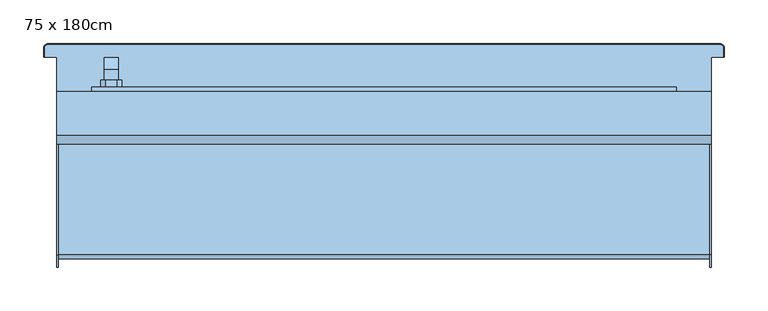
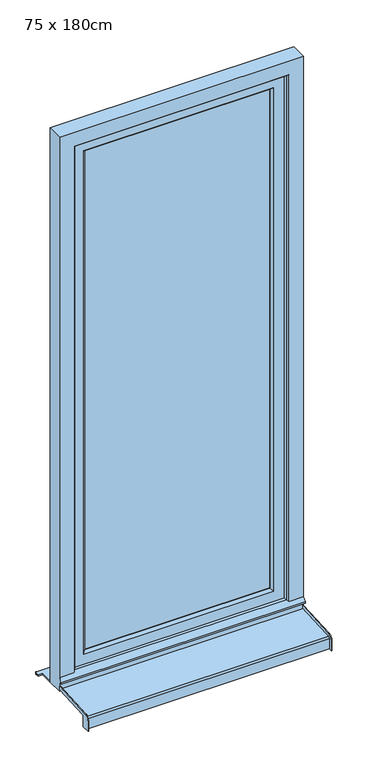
"""IFC4 building model written with IfcOpenShell, lengths in millimetres: window geometry, Fenêtre type 1 : 75 x 180cm."""

import ifcopenshell
import ifcopenshell.guid

model = None  # the IFC model being written
_history = None  # IfcOwnerHistory: only IFC2X3 demands one
_inside = {}  # id of a spatial element -> (the spatial element, [elements in it])
_under = {}  # id of a project, library or spatial element -> (it, [spatial elements below it])
_declared = {}  # id of a project -> (the project, [libraries it declares])
_typed = {}  # id of a type object -> (the type object, [elements of that type])
_made_of = {}  # id of a material, layer set ... -> (it, [elements and type objects made of it])


def new_model(schema):
    """Start an empty IFC model of exactly this schema.

    Asked for "IFC4X3", IfcOpenShell would pick the latest addendum, in which some entities
    have other attributes; the version numbers below select the first issue.
    IFC2X3 requires an IfcOwnerHistory on every rooted entity: one is made here for all.
    """
    global model, _history
    if schema == "IFC4X3":
        model = ifcopenshell.file(schema_version=(4, 3, 0, 0))
    else:
        model = ifcopenshell.file(schema=schema)
    _inside.clear()
    _under.clear()
    _declared.clear()
    _typed.clear()
    _made_of.clear()
    _history = None
    if model.schema == "IFC2X3":
        org = make("IfcOrganization", Name="unknown")
        user = make(
            "IfcPersonAndOrganization",
            ThePerson=make("IfcPerson", FamilyName="unknown"),
            TheOrganization=org,
        )
        app = make(
            "IfcApplication",
            ApplicationDeveloper=org,
            Version="unknown",
            ApplicationFullName="unknown",
            ApplicationIdentifier="unknown",
        )
        _history = make(
            "IfcOwnerHistory",
            OwningUser=user,
            OwningApplication=app,
            ChangeAction="ADDED",
            CreationDate=0,
        )
    return model


def make(cls, **values):
    """One entity of the class cls with the attributes given. An attribute that is None is left unset."""
    return model.create_entity(
        cls, **{name: value for name, value in values.items() if value is not None}
    )


def rooted(cls, **values):
    """An entity with a GlobalId (a new one), such as an element, a storey or a relation."""
    return make(cls, GlobalId=ifcopenshell.guid.new(), OwnerHistory=_history, **values)


def si_unit(unit_type, name, prefix=None):
    """IfcSIUnit, for example si_unit("LENGTHUNIT", "METRE", prefix="MILLI")."""
    return make("IfcSIUnit", UnitType=unit_type, Prefix=prefix, Name=name)


def assignment(units):
    """IfcUnitAssignment: the units of a project."""
    return None if units is None else make("IfcUnitAssignment", Units=units)


def point(xyz):
    """IfcCartesianPoint."""
    return None if xyz is None else make("IfcCartesianPoint", Coordinates=xyz)


def direction(xyz):
    """IfcDirection."""
    return None if xyz is None else make("IfcDirection", DirectionRatios=xyz)


def frame(location, z_axis=None, x_axis=None):
    """IfcAxis2Placement3D, a coordinate frame: its origin and axes. An axis left out is left unset."""
    return make(
        "IfcAxis2Placement3D",
        Location=point(location),
        Axis=direction(z_axis),
        RefDirection=direction(x_axis),
    )


def origin():
    """The frame at (0, 0, 0) with its axes left unset."""
    return frame((0.0, 0.0, 0.0))


def place(relative_to, where):
    """IfcLocalPlacement: puts the frame where relative to a parent placement (None: the world)."""
    return make(
        "IfcLocalPlacement", PlacementRelTo=relative_to, RelativePlacement=where
    )


def context(
    kind, dimensions, precision=None, world=None, true_north=None, identifier=None
):
    """IfcGeometricRepresentationContext, for example the 3D "Model" context."""
    return make(
        "IfcGeometricRepresentationContext",
        ContextIdentifier=identifier,
        ContextType=kind,
        CoordinateSpaceDimension=dimensions,
        Precision=precision,
        WorldCoordinateSystem=world,
        TrueNorth=true_north,
    )


def project(units=None, contexts=None):
    """IfcProject with its units and contexts."""
    return rooted(
        "IfcProject",
        Name="project",
        RepresentationContexts=contexts,
        UnitsInContext=assignment(units),
    )


def spatial(cls, under=None, at=None, **own):
    """A site, building, storey or space (cls), placed at a placement, below another one or the project."""
    s = rooted(cls, ObjectPlacement=at, **own)
    if under is not None:
        _under.setdefault(under.id(), (under, []))[1].append(s)
    return s


def polyline(points):
    """IfcPolyline through the points."""
    return make("IfcPolyline", Points=[point(p) for p in points])


def circle_curve(where, radius):
    """IfcCircle in the frame where."""
    return make("IfcCircle", Position=where, Radius=radius)


def outline(outer, holes=None, kind="AREA"):
    """IfcArbitraryClosedProfileDef: a profile drawn as a closed curve; with holes, ...WithVoids."""
    if holes is None:
        return make("IfcArbitraryClosedProfileDef", ProfileType=kind, OuterCurve=outer)
    return make(
        "IfcArbitraryProfileDefWithVoids",
        ProfileType=kind,
        OuterCurve=outer,
        InnerCurves=holes,
    )


def extrude(swept, where, along, depth):
    """IfcExtrudedAreaSolid: the profile swept, set in the frame where, extruded along a direction by depth."""
    return make(
        "IfcExtrudedAreaSolid",
        SweptArea=swept,
        Position=where,
        ExtrudedDirection=direction(along),
        Depth=depth,
    )


def faces_of(points, faces, orient=None, outer=None):
    """IfcFace entities. A face is a list of loops; a loop is a list of indices into points, from 0.

    orient and outer hold one flag for each loop. By default every Orientation is true, the
    first loop of a face is its IfcFaceOuterBound and the others are IfcFaceBound.
    """
    made = []
    for i, loops in enumerate(faces):
        bounds = []
        for j, loop in enumerate(loops):
            is_outer = j == 0 if outer is None else outer[i][j]
            bounds.append(
                make(
                    "IfcFaceOuterBound" if is_outer else "IfcFaceBound",
                    Bound=make("IfcPolyLoop", Polygon=[points[k] for k in loop]),
                    Orientation=True if orient is None else orient[i][j],
                )
            )
        made.append(make("IfcFace", Bounds=bounds))
    return made


def faceted_brep(points, faces, orient=None, outer=None, voids=None):
    """IfcFacetedBrep: a solid bounded by flat faces; with voids (closed shells), ...WithVoids."""
    shared = [point(p) for p in points]
    hull = make("IfcClosedShell", CfsFaces=faces_of(shared, faces, orient, outer))
    if voids is None:
        return make("IfcFacetedBrep", Outer=hull)
    return make(
        "IfcFacetedBrepWithVoids",
        Outer=hull,
        Voids=[
            make(cls, CfsFaces=faces_of(shared, fs, o, b)) for cls, fs, o, b in voids
        ],
    )


def shape(context_of_items, identifier, shape_type, items):
    """IfcShapeRepresentation: the items that make up one representation, for example the "Body"."""
    return make(
        "IfcShapeRepresentation",
        ContextOfItems=context_of_items,
        RepresentationIdentifier=identifier,
        RepresentationType=shape_type,
        Items=items,
    )


def source(mapping_origin, context_of_items, identifier, shape_type, items):
    """IfcRepresentationMap: a shape defined once, which mapped items show again and again."""
    return make(
        "IfcRepresentationMap",
        MappingOrigin=mapping_origin,
        MappedRepresentation=shape(context_of_items, identifier, shape_type, items),
    )


def transform(
    local_origin,
    x_axis=None,
    y_axis=None,
    z_axis=None,
    scale=None,
    scale2=None,
    scale3=None,
    uniform=True,
):
    """IfcCartesianTransformationOperator3D, or its non-uniform kind. x_axis, y_axis, z_axis: its Axis1, 2, 3."""
    if uniform:
        return make(
            "IfcCartesianTransformationOperator3D",
            Axis1=direction(x_axis),
            Axis2=direction(y_axis),
            LocalOrigin=point(local_origin),
            Scale=scale,
            Axis3=direction(z_axis),
        )
    return make(
        "IfcCartesianTransformationOperator3DnonUniform",
        Axis1=direction(x_axis),
        Axis2=direction(y_axis),
        LocalOrigin=point(local_origin),
        Scale=scale,
        Axis3=direction(z_axis),
        Scale2=scale2,
        Scale3=scale3,
    )


def mapped(mapping_source, mapping_target):
    """IfcMappedItem: shows the shape of a source again, moved by a transform."""
    return make(
        "IfcMappedItem", MappingSource=mapping_source, MappingTarget=mapping_target
    )


def made_of(thing, what):
    """Note that an element or type object is made of a material, layer set ...; save() writes the relation."""
    if what is not None:
        _made_of.setdefault(what.id(), (what, []))[1].append(thing)
    return thing


def element(
    cls,
    number,
    at=None,
    inside=None,
    cuts=None,
    type_object=None,
    material=None,
    context=None,
    identifier="Body",
    shape_type=None,
    held_by="IfcProductDefinitionShape",
    body=None,
    shapes=None,
    **own,
):
    """One element of the class cls, such as IfcWall. Its Tag is "e" and its number.

    at: its placement. inside: the storey or other place that contains it. cuts: it is an
    opening in that element (IfcRelVoidsElement). A single representation is given by context,
    identifier, shape_type and body (its items); several are given by shapes. held_by: the class
    of the entity that holds the representations. save() writes the other relations.
    """
    e = rooted(cls, Tag="e%d" % number, ObjectPlacement=at, **own)
    if body is not None:
        shapes = [shape(context, identifier, shape_type, body)]
    if shapes is not None:
        e.Representation = make(held_by, Representations=shapes)
    if inside is not None:
        _inside.setdefault(inside.id(), (inside, []))[1].append(e)
    if cuts is not None:
        rooted(
            "IfcRelVoidsElement", RelatingBuildingElement=cuts, RelatedOpeningElement=e
        )
    if type_object is not None:
        _typed.setdefault(type_object.id(), (type_object, []))[1].append(e)
    return made_of(e, material)


def aggregate(whole, parts):
    """IfcRelAggregates: a whole, such as a stair, and the parts it consists of."""
    return rooted("IfcRelAggregates", RelatingObject=whole, RelatedObjects=parts)


def save(model, path):
    """Write the relations noted so far, then the file.

    IfcRelAggregates (storeys below a building ...), IfcRelContainedInSpatialStructure (elements
    in a storey), IfcRelDefinesByType, IfcRelAssociatesMaterial and IfcRelDeclares: one each for
    every whole, place, type object, material and project.
    """
    for whole, parts in _under.values():
        aggregate(whole, parts)
    for where, things in _inside.values():
        rooted(
            "IfcRelContainedInSpatialStructure",
            RelatedElements=things,
            RelatingStructure=where,
        )
    for kind, things in _typed.values():
        rooted("IfcRelDefinesByType", RelatedObjects=things, RelatingType=kind)
    for what, things in _made_of.values():
        rooted("IfcRelAssociatesMaterial", RelatedObjects=things, RelatingMaterial=what)
    for by, libraries in _declared.values():
        rooted("IfcRelDeclares", RelatingContext=by, RelatedDefinitions=libraries)
    model.write(path)


def plane_surface(at):
    """IfcPlane: the flat surface through the origin of the frame at, square to its z axis."""
    return make("IfcPlane", Position=at)


def cylinder_surface(at, radius):
    """IfcCylindricalSurface: all points at the distance radius from the z axis of the frame at."""
    return make("IfcCylindricalSurface", Position=at, Radius=radius)


def revolved_surface(curve, axis_point, axis_direction):
    """IfcSurfaceOfRevolution: the curve turned about the line through axis_point along axis_direction."""
    return make(
        "IfcSurfaceOfRevolution",
        SweptCurve=make("IfcArbitraryOpenProfileDef", ProfileType="CURVE", Curve=curve),
        AxisPosition=make("IfcAxis1Placement", Location=point(axis_point), Axis=direction(axis_direction)),
    )


def advanced_brep(points, edges, surfaces, faces):
    """IfcAdvancedBrep: a solid bounded by faces that lie on surfaces and meet in shared edges.

    An edge is (start, end): straight between two places in points (the first is 0);
    or (start, end, curve); or (start, end, curve, False) where it runs against its curve.
    A face is (place in surfaces, loops), or (place, loops, False) where it looks against
    its surface's normal. A loop lists edges by number (the first is 1), with a minus sign
    where the edge is run from its end to its start. The first loop is the outer one.
    """
    corners = [point(p) for p in points]
    vertices = [make("IfcVertexPoint", VertexGeometry=c) for c in corners]
    made = []
    for start, end, *more in edges:
        made.append(
            make(
                "IfcEdgeCurve",
                EdgeStart=vertices[start],
                EdgeEnd=vertices[end],
                EdgeGeometry=more[0] if more else make("IfcPolyline", Points=[corners[start], corners[end]]),
                SameSense=more[1] if len(more) > 1 else True,
            )
        )
    hull = []
    for where, loops, *sense in faces:
        bounds = []
        for j, loop in enumerate(loops):
            ring = [make("IfcOrientedEdge", EdgeElement=made[abs(k) - 1], Orientation=k > 0) for k in loop]
            bounds.append(
                make(
                    "IfcFaceOuterBound" if j == 0 else "IfcFaceBound",
                    Bound=make("IfcEdgeLoop", EdgeList=ring),
                    Orientation=True,
                )
            )
        hull.append(make("IfcAdvancedFace", Bounds=bounds, FaceSurface=surfaces[where], SameSense=sense[0] if sense else True))
    return make("IfcAdvancedBrep", Outer=make("IfcClosedShell", CfsFaces=hull))


def window_75_x_180cm_aebe7c0e(model_context):
    return source(origin(), model_context, "Body", "SolidModel", [
        faceted_brep([(-320.5, 73.0, 1306.0), (-320.5, 73.0, 1294.0), (-304.5, 73.0, 1294.0), (-304.5, 73.0, 1306.0), (-304.5, 85.4852814, 1306.0), (-320.5, 85.4852814, 1306.0), (-304.5, 80.5147186, 1294.0), (-304.5, 87.0, 1287.5147186), (-304.5, 87.0, 1287.2282668), (-304.5, 89.7580139, 1208.5355339), (-304.5, 99.0, 1208.5355339), (-304.5, 99.0, 1292.4852814), (-320.5, 80.5147186, 1294.0), (-320.5, 99.0, 1292.4852814), (-320.5, 99.0, 1208.5355339), (-320.5, 89.7580139, 1208.5355339), (-320.5, 87.0099909, 1287.2286157), (-320.5, 87.0, 1287.5147186), (-308.0355339, 99.0, 1205.0), (-308.0355339, 89.8814775, 1205.0), (-316.9644661, 89.8814775, 1205.0), (-316.9644661, 99.0, 1205.0)], [[[0, 1, 2, 3]], [[3, 4, 5, 0]], [[2, 6, 7, 8, 9, 10, 11, 4, 3]], [[1, 12, 6, 2]], [[0, 5, 13, 14, 15, 16, 17, 12, 1]], [[4, 11, 13, 5]], [[6, 12, 17, 7]], [[18, 19, 20, 21]], [[11, 10, 18, 21, 14, 13]], [[17, 16, 8, 7]], [[16, 15, 20, 19, 9, 8]], [[9, 19, 18, 10]], [[14, 21, 20, 15]]]),
        extrude(outline(polyline([(1330.0, -319.5), (1325.0, -324.5), (1275.0, -324.5), (1270.0, -319.5), (1270.0, -305.5), (1275.0, -300.5), (1325.0, -300.5), (1330.0, -305.5), (1330.0, -319.5)])), frame((0.0, 65.0, 0.0), z_axis=(0.0, 1.0, 0.0), x_axis=(0.0, 0.0, 1.0)), (0.0, 0.0, 1.0), 8.0),
        advanced_brep(
        [(-375.0, -115.0, 762.0), (-375.0, -141.5, 762.0), (-375.0, -141.5, 795.1063906), (-375.0, -127.2850393, 810.0858337), (-375.0, 10.0, 817.2806377), (-375.0, 10.0, 805.7648557), (-375.0, -115.0, 799.2138833), (375.0, -115.0, 799.2138833), (375.0, 10.0, 805.7648557), (375.0, 10.0, 817.2806377), (375.0, -127.2850393, 810.0858337), (375.0, -141.5, 795.1063906), (375.0, -141.5, 762.0), (375.0, -115.0, 762.0), (-373.0, 10.0, 817.2806377), (-373.0, 10.0, 807.2669142), (373.0, 10.0, 807.2669142), (373.0, 10.0, 817.2806377), (-373.0, -126.7616798, 800.0995383), (373.0, -126.7616798, 800.0995383), (373.0, -131.5, 795.1063906), (-373.0, -131.5, 795.1063906), (-373.0, -131.5, 762.0), (373.0, -131.5, 762.0), (-373.0, -130.0, 762.0), (373.0, -130.0, 762.0), (373.0, -115.0, 762.0), (373.0, -141.5, 762.0), (-373.0, -141.5, 762.0), (-373.0, -115.0, 762.0), (-373.0, -120.0, 772.0), (373.0, -120.0, 772.0), (-373.0, -121.0606602, 773.0606602), (373.0, -121.0606602, 773.0606602), (-373.0, -130.0, 764.1213203), (373.0, -130.0, 764.1213203), (-373.0, -130.0, 795.0728058), (373.0, -130.0, 795.0728058), (-373.0, -115.0, 799.2138833), (373.0, -115.0, 799.2138833), (373.0, -126.649637, 798.6033517), (-373.0, -126.649637, 798.6033517), (373.0, -141.5, 795.1063906), (373.0, -127.2850393, 810.0858337), (-373.0, -127.2850393, 810.0858337), (-373.0, -141.5, 795.1063906)],
        [
            (0, 1),
            (1, 2),
            (2, 3, circle_curve(frame((-375.0, -126.5, 795.1063906), z_axis=(-1.0, 0.0, 0.0), x_axis=(0.0, -0.052335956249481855, 0.9986295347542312)), 15.0)),
            (3, 4),
            (4, 5),
            (5, 6),
            (6, 0),
            (7, 8),
            (8, 9),
            (9, 10),
            (10, 11, circle_curve(frame((375.0, -126.5, 795.1063906), z_axis=(1.0, 0.0, 0.0), x_axis=(0.0, -1.0, 0.0)), 15.0)),
            (11, 12),
            (12, 13),
            (13, 7),
            (14, 15),
            (15, 16),
            (16, 17),
            (17, 9),
            (8, 5),
            (4, 14),
            (18, 19),
            (19, 16),
            (15, 18),
            (20, 21),
            (21, 22),
            (22, 23),
            (23, 20),
            (24, 25),
            (25, 26),
            (26, 13),
            (12, 27),
            (27, 23),
            (22, 28),
            (28, 1),
            (0, 29),
            (29, 24),
            (30, 31),
            (31, 25),
            (24, 30),
            (32, 33),
            (33, 31),
            (30, 32),
            (34, 35),
            (35, 33),
            (32, 34),
            (36, 37),
            (37, 35),
            (34, 36),
            (38, 6),
            (7, 39),
            (39, 40),
            (40, 41),
            (41, 38),
            (41, 36, circle_curve(frame((-373.0, -126.4646089, 795.0728058), z_axis=(1.0, 0.0, 0.0), x_axis=(0.0, 1.0, 0.0)), 3.5353911)),
            (29, 38),
            (37, 40, circle_curve(frame((373.0, -126.4646089, 795.0728058), z_axis=(-1.0, 0.0, 0.0), x_axis=(0.0, 1.0, 0.0)), 3.5353911)),
            (39, 26),
            (18, 21, circle_curve(frame((-373.0, -126.5, 795.1063906), z_axis=(1.0, 0.0, 0.0), x_axis=(0.0, 1.0, 0.0)), 5.0)),
            (20, 19, circle_curve(frame((373.0, -126.5, 795.1063906), z_axis=(-1.0, 0.0, 0.0), x_axis=(0.0, 1.0, 0.0)), 5.0)),
            (27, 42),
            (42, 43, circle_curve(frame((373.0, -126.5, 795.1063906), z_axis=(-1.0, 0.0, 0.0), x_axis=(0.0, -1.0, 0.0)), 15.0)),
            (43, 17),
            (11, 42),
            (10, 43),
            (14, 44),
            (44, 45, circle_curve(frame((-373.0, -126.5, 795.1063906), z_axis=(1.0, 0.0, 0.0), x_axis=(0.0, -0.052335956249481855, 0.9986295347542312)), 15.0)),
            (45, 28),
            (3, 44),
            (2, 45),
        ],
        [
            plane_surface(frame((-375.0, 10.0, 805.7648557), z_axis=(-1.0, 0.0, 0.0), x_axis=(0.0, 0.0, 1.0))),
            plane_surface(frame((375.0, 10.0, 805.7648557), z_axis=(1.0, 0.0, 0.0), x_axis=(0.0, 0.0, -1.0))),
            plane_surface(frame((-375.0, 10.0, 805.7648557), z_axis=(0.0, 1.0, 0.0), x_axis=(1.0, 0.0, 0.0))),
            plane_surface(frame((-375.0, 10.0, 807.2669142), z_axis=(0.0, -0.0523359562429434, 0.9986295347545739), x_axis=(1.0, 0.0, 0.0))),
            plane_surface(frame((-375.0, -131.5, 795.1063906), z_axis=(0.0, -1.0, 0.0), x_axis=(1.0, 0.0, 0.0))),
            plane_surface(frame((-375.0, -131.5, 762.0), z_axis=(0.0, 0.0, -1.0), x_axis=(1.0, 0.0, 0.0))),
            plane_surface(frame((-375.0, -130.0, 762.0), z_axis=(0.0, 0.7071067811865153, -0.7071067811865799), x_axis=(1.0, 0.0, 0.0))),
            plane_surface(frame((-375.0, -120.0, 772.0), z_axis=(0.0, 0.7071067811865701, 0.707106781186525), x_axis=(1.0, 0.0, 0.0))),
            plane_surface(frame((-375.0, -121.0606602, 773.0606602), z_axis=(0.0, -0.7071067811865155, 0.7071067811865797), x_axis=(1.0, 0.0, 0.0))),
            plane_surface(frame((-375.0, -130.0, 764.1213203), z_axis=(0.0, 1.0, 0.0), x_axis=(1.0, 0.0, 0.0))),
            plane_surface(frame((-375.0, -126.649637, 798.6033517), z_axis=(0.0, 0.05233595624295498, -0.9986295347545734), x_axis=(1.0, 0.0, 0.0))),
            plane_surface(frame((-373.0, -130.0, 798.4277666), z_axis=(1.0, 0.0, 0.0), x_axis=(0.0, 0.9986295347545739, 0.05233595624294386))),
            plane_surface(frame((-375.0, -115.0, 762.0), z_axis=(0.0, 1.0, 0.0), x_axis=(1.0, 0.0, 0.0))),
            plane_surface(frame((373.0, -130.0, 798.4277666), z_axis=(-1.0, 0.0, 0.0), x_axis=(0.0, 0.0, -1.0))),
            plane_surface(frame((373.0, -115.0, 762.0), z_axis=(0.0, 1.0, 0.0), x_axis=(1.0, 0.0, 0.0))),
            cylinder_surface(frame((375.0, -126.5, 795.1063906), z_axis=(-1.0, 0.0, 0.0), x_axis=(0.0, 1.0, 0.0)), 5.0),
            revolved_surface(polyline([(373.0, -122.9292178, 795.0728058), (-373.0, -122.9292178, 795.0728058)]), (375.0, -126.4646089, 795.0728058), (1.0, 0.0, 0.0)),
            plane_surface(frame((373.0, -131.5, 762.0), z_axis=(-1.0, 0.0, 0.0), x_axis=(0.0, 0.0, 1.0))),
            plane_surface(frame((373.0, -141.5, 762.0), z_axis=(0.0, -1.0, 0.0), x_axis=(0.0, 0.0, 1.0))),
            cylinder_surface(frame((375.0, -126.5, 795.1063906), z_axis=(1.0, 0.0, 0.0), x_axis=(0.0, -1.0, 0.0)), 15.0),
            plane_surface(frame((373.0, -127.2850393, 810.0858337), z_axis=(0.0, -0.052335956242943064, 0.9986295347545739), x_axis=(0.0, 0.9986295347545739, 0.052335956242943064))),
            plane_surface(frame((-373.0, 10.0, 817.2806377), z_axis=(1.0, 0.0, 0.0), x_axis=(0.0, 0.9986295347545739, 0.05233595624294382))),
            plane_surface(frame((-375.0, 10.0, 817.2806377), z_axis=(0.0, -0.05233595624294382, 0.9986295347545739), x_axis=(1.0, 0.0, 0.0))),
            cylinder_surface(frame((-375.0, -126.5, 795.1063906), z_axis=(-1.0, 0.0, 0.0), x_axis=(0.0, -0.052335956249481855, 0.9986295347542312)), 15.0),
            plane_surface(frame((-373.0, -141.5, 795.1063906), z_axis=(0.0, -1.0, 0.0), x_axis=(0.0, 0.0, -1.0))),
        ],
        [
            (0, [[1, 2, 3, 4, 5, 6, 7]]),
            (1, [[8, 9, 10, 11, 12, 13, 14]]),
            (2, [[15, 16, 17, 18, -9, 19, -5, 20]]),
            (3, [[21, 22, -16, 23]]),
            (4, [[24, 25, 26, 27]]),
            (5, [[28, 29, 30, -13, 31, 32, -26, 33, 34, -1, 35, 36]]),
            (6, [[37, 38, -28, 39]]),
            (7, [[40, 41, -37, 42]]),
            (8, [[43, 44, -40, 45]]),
            (9, [[46, 47, -43, 48]]),
            (10, [[49, -6, -19, -8, 50, 51, 52, 53]]),
            (11, [[-53, 54, -48, -45, -42, -39, -36, 55]]),
            (12, [[-35, -7, -49, -55]]),
            (13, [[-38, -41, -44, -47, 56, -51, 57, -29]]),
            (14, [[-50, -14, -30, -57]]),
            (15, [[-21, 58, -24, 59]]),
            (16, [[-52, -56, -46, -54]]),
            (17, [[60, 61, 62, -17, -22, -59, -27, -32]]),
            (18, [[-12, 63, -60, -31]]),
            (19, [[64, -61, -63, -11]]),
            (20, [[-10, -18, -62, -64]]),
            (21, [[65, 66, 67, -33, -25, -58, -23, -15]]),
            (22, [[68, -65, -20, -4]]),
            (23, [[69, -66, -68, -3]]),
            (24, [[-34, -67, -69, -2]]),
        ],
    ),
        extrude(outline(polyline([(-285.0, 55.0), (285.0, 55.0), (285.0, 35.0), (-285.0, 35.0), (-285.0, 55.0)])), frame((0.0, 0.0, 890.0), z_axis=(0.0, 0.0, 1.0), x_axis=(1.0, 0.0, 0.0)), (0.0, 0.0, 1.0), 1620.0),
        faceted_brep([(-335.0, 65.0, 840.0), (335.0, 65.0, 840.0), (335.0, 25.0, 840.0), (-335.0, 25.0, 840.0), (335.0, 65.0, 2560.0), (335.0, 25.0, 2560.0), (-335.0, 25.0, 2560.0), (292.0710678, 25.0, 2517.0710678), (292.0710678, 25.0, 882.9289322), (-292.0710678, 25.0, 882.9289322), (-292.0710678, 25.0, 2517.0710678), (-335.0, 65.0, 2560.0), (292.0710678, 65.0, 882.9289322), (292.0710678, 65.0, 2517.0710678), (-292.0710678, 65.0, 2517.0710678), (-292.0710678, 65.0, 882.9289322), (-285.0, 57.9289322, 890.0), (285.0, 57.9289322, 890.0), (285.0, 57.9289322, 2510.0), (285.0, 32.0710678, 890.0), (285.0, 32.0710678, 2510.0), (-285.0, 32.0710678, 890.0), (-285.0, 57.9289322, 2510.0), (-285.0, 32.0710678, 2510.0)], [[[0, 1, 2, 3]], [[1, 4, 5, 2]], [[2, 5, 6, 3], [7, 8, 9, 10]], [[4, 1, 0, 11], [12, 13, 14, 15]], [[16, 17, 12, 15]], [[17, 18, 13, 12]], [[19, 20, 18, 17]], [[9, 8, 19, 21]], [[8, 7, 20, 19]], [[11, 0, 3, 6]], [[22, 16, 15, 14]], [[23, 21, 16, 22]], [[10, 9, 21, 23]], [[21, 19, 17, 16]], [[4, 11, 6, 5]], [[18, 22, 14, 13]], [[7, 10, 23, 20]], [[20, 23, 22, 18]]]),
        faceted_brep([(375.0, 10.0, 800.0), (375.0, 60.0, 800.0), (375.0, 60.0, 2600.0), (375.0, 10.0, 2600.0), (375.0, 10.0, 845.0), (375.0, 0.0, 835.0), (375.0, 0.0, 830.0), (375.0, 10.0, 830.0), (-375.0, 10.0, 830.0), (-375.0, 10.0, 800.0), (-375.0, 0.0, 830.0), (-375.0, 0.0, 835.0), (330.0, 10.0, 845.0), (325.0, 15.0, 850.0), (-325.0, 15.0, 850.0), (-330.0, 10.0, 845.0), (-375.0, 10.0, 845.0), (-375.0, 10.0, 2600.0), (-330.0, 10.0, 2555.0), (330.0, 10.0, 2555.0), (-375.0, 60.0, 800.0), (-375.0, 60.0, 2600.0), (335.0, 60.0, 840.0), (335.0, 60.0, 2560.0), (-335.0, 60.0, 2560.0), (-335.0, 60.0, 840.0), (-335.0, 25.0, 840.0), (335.0, 25.0, 840.0), (-335.0, 25.0, 2560.0), (335.0, 25.0, 2560.0), (325.0, 25.0, 850.0), (325.0, 25.0, 2550.0), (-325.0, 25.0, 2550.0), (-325.0, 25.0, 850.0), (-325.0, 15.0, 2550.0), (325.0, 15.0, 2550.0)], [[[0, 1, 2, 3, 4, 5, 6, 7]], [[7, 8, 9, 0]], [[6, 10, 8, 7]], [[5, 11, 10, 6]], [[5, 4, 12, 13, 14, 15, 16, 11]], [[17, 16, 15, 18, 19, 12, 4, 3]], [[1, 20, 21, 2], [22, 23, 24, 25]], [[0, 9, 20, 1]], [[9, 8, 10, 11, 16, 17, 21, 20]], [[25, 26, 27, 22]], [[26, 25, 24, 28]], [[22, 27, 29, 23]], [[29, 27, 26, 28], [30, 31, 32, 33]], [[33, 14, 13, 30]], [[34, 14, 33, 32]], [[31, 30, 13, 35]], [[35, 13, 12, 19]], [[18, 15, 14, 34]], [[3, 2, 21, 17]], [[28, 24, 23, 29]], [[31, 35, 34, 32]], [[18, 34, 35, 19]]]),
        advanced_brep(
        [(375.0, 100.0, 805.0), (388.9971508, 100.0, 805.0), (388.9971508, 110.0, 805.0), (385.0, 113.9971508, 805.0), (-385.0, 113.9971508, 805.0), (-388.9971508, 110.0, 805.0), (-388.9971508, 100.0, 805.0), (-375.0, 100.0, 805.0), (-375.0, 60.0, 805.0), (375.0, 60.0, 805.0), (-375.0, 100.0, 800.0), (-388.9971508, 100.0, 800.0), (-388.9971508, 110.0, 800.0), (-385.0, 113.9971508, 800.0), (385.0, 113.9971508, 800.0), (388.9971508, 110.0, 800.0), (388.9971508, 100.0, 800.0), (375.0, 100.0, 800.0), (375.0, 60.0, 800.0), (-375.0, 60.0, 800.0), (-390.0, 110.0, 801.0028492), (-390.0, 100.0, 801.0028492), (-390.0, 100.0, 803.9971508), (-390.0, 110.0, 803.9971508), (390.0, 100.0, 801.0028492), (390.0, 100.0, 803.9971508), (390.0, 110.0, 801.0028492), (390.0, 110.0, 803.9971508), (385.0, 115.0, 801.0028492), (-385.0, 115.0, 801.0028492), (-385.0, 115.0, 803.9971508), (385.0, 115.0, 803.9971508)],
        [
            (0, 1),
            (1, 2),
            (2, 3, circle_curve(frame((385.0, 110.0, 805.0), z_axis=(0.0, 0.0, 1.0), x_axis=(0.0, 1.0, 0.0)), 3.9971508)),
            (3, 4),
            (4, 5, circle_curve(frame((-385.0, 110.0, 805.0), z_axis=(0.0, 0.0, 1.0), x_axis=(-1.0, 0.0, 0.0)), 3.9971508)),
            (5, 6),
            (6, 7),
            (7, 8),
            (8, 9),
            (9, 0),
            (10, 11),
            (11, 12),
            (12, 13, circle_curve(frame((-385.0, 110.0, 800.0), z_axis=(0.0, 0.0, -1.0), x_axis=(-1.0, 0.0, 0.0)), 3.9971508)),
            (13, 14),
            (14, 15, circle_curve(frame((385.0, 110.0, 800.0), z_axis=(0.0, 0.0, -1.0), x_axis=(0.0, 1.0, 0.0)), 3.9971508)),
            (15, 16),
            (16, 17),
            (17, 18),
            (18, 19),
            (19, 10),
            (20, 21),
            (21, 22),
            (22, 23),
            (23, 20),
            (6, 22),
            (21, 11),
            (10, 7),
            (19, 8),
            (18, 9),
            (17, 0),
            (16, 24),
            (24, 25),
            (25, 1),
            (24, 26),
            (26, 27),
            (27, 25),
            (28, 29),
            (29, 30),
            (30, 31),
            (31, 28),
            (31, 27, circle_curve(frame((385.0, 110.0, 803.9971508), z_axis=(0.0, 0.0, -1.0), x_axis=(0.0, 1.0, 0.0)), 5.0)),
            (26, 28, circle_curve(frame((385.0, 110.0, 801.0028492), z_axis=(0.0, 0.0, 1.0), x_axis=(0.0, 1.0, 0.0)), 5.0)),
            (23, 30, circle_curve(frame((-385.0, 110.0, 803.9971508), z_axis=(0.0, 0.0, -1.0), x_axis=(0.0, 1.0, 0.0)), 5.0)),
            (29, 20, circle_curve(frame((-385.0, 110.0, 801.0028492), z_axis=(0.0, 0.0, 1.0), x_axis=(0.0, 1.0, 0.0)), 5.0)),
            (5, 23),
            (20, 12),
            (4, 30),
            (29, 13),
            (3, 31),
            (28, 14),
            (2, 27),
            (26, 15),
        ],
        [
            plane_surface(frame((-390.0, 100.0, 805.0), z_axis=(0.0, 0.0, 1.0), x_axis=(0.0, 1.0, 0.0))),
            plane_surface(frame((-390.0, 100.0, 800.0), z_axis=(0.0, 0.0, -1.0), x_axis=(0.0, -1.0, 0.0))),
            plane_surface(frame((-390.0, 110.0, 800.0), z_axis=(-1.0, 0.0, 0.0), x_axis=(0.0, 0.0, 1.0))),
            plane_surface(frame((-390.0, 100.0, 800.0), z_axis=(0.0, -1.0, 0.0), x_axis=(0.0, 0.0, 1.0))),
            plane_surface(frame((-375.0, 100.0, 800.0), z_axis=(-1.0, 0.0, 0.0), x_axis=(0.0, 0.0, 1.0))),
            plane_surface(frame((-375.0, 60.0, 800.0), z_axis=(0.0, -1.0, 0.0), x_axis=(0.0, 0.0, 1.0))),
            plane_surface(frame((375.0, 60.0, 800.0), z_axis=(1.0, 0.0, 0.0), x_axis=(0.0, 0.0, 1.0))),
            plane_surface(frame((375.0, 100.0, 800.0), z_axis=(0.0, -1.0, 0.0), x_axis=(0.0, 0.0, 1.0))),
            plane_surface(frame((390.0, 100.0, 800.0), z_axis=(1.0, 0.0, 0.0), x_axis=(0.0, 0.0, 1.0))),
            plane_surface(frame((385.0, 115.0, 800.0), z_axis=(0.0, 1.0, 0.0), x_axis=(0.0, 0.0, 1.0))),
            cylinder_surface(frame((385.0, 110.0, 805.0), z_axis=(0.0, 0.0, -1.0), x_axis=(0.0, 1.0, 0.0)), 5.0),
            cylinder_surface(frame((-385.0, 110.0, 805.0), z_axis=(0.0, 0.0, -1.0), x_axis=(0.0, 1.0, 0.0)), 5.0),
            plane_surface(frame((-388.9971508, 100.0, 805.0), z_axis=(-0.7071067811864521, 0.0, 0.707106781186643), x_axis=(0.0, 1.0, 0.0))),
            plane_surface(frame((-390.0, 100.0, 801.0028492), z_axis=(-0.7071067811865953, 0.0, -0.7071067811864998), x_axis=(0.0, 1.0, 0.0))),
            revolved_surface(polyline([(-390.0, 110.0, 803.9971508), (-388.9971508, 110.0, 805.0)]), (-385.0, 110.0, 805.0), (0.0, 0.0, 1.0)),
            revolved_surface(polyline([(-388.9971508, 110.0, 800.0), (-390.0, 110.0, 801.0028492)]), (-385.0, 110.0, 805.0), (0.0, 0.0, 1.0)),
            plane_surface(frame((-385.0, 113.9971508, 805.0), z_axis=(0.0, 0.7071067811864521, 0.707106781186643), x_axis=(1.0, 0.0, 0.0))),
            plane_surface(frame((-385.0, 115.0, 801.0028492), z_axis=(0.0, 0.7071067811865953, -0.7071067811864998), x_axis=(1.0, 0.0, 0.0))),
            revolved_surface(polyline([(385.0, 115.0, 803.9971508), (385.0, 113.9971508, 805.0)]), (385.0, 110.0, 805.0), (0.0, 0.0, 1.0)),
            revolved_surface(polyline([(385.0, 113.9971508, 800.0), (385.0, 115.0, 801.0028492)]), (385.0, 110.0, 805.0), (0.0, 0.0, 1.0)),
            plane_surface(frame((388.9971508, 110.0, 805.0), z_axis=(0.7071067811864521, 0.0, 0.707106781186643), x_axis=(0.0, -1.0, 0.0))),
            plane_surface(frame((390.0, 110.0, 801.0028492), z_axis=(0.7071067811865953, 0.0, -0.7071067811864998), x_axis=(0.0, -1.0, 0.0))),
        ],
        [
            (0, [[1, 2, 3, 4, 5, 6, 7, 8, 9, 10]]),
            (1, [[11, 12, 13, 14, 15, 16, 17, 18, 19, 20]]),
            (2, [[21, 22, 23, 24]]),
            (3, [[-7, 25, -22, 26, -11, 27]]),
            (4, [[-27, -20, 28, -8]]),
            (5, [[-28, -19, 29, -9]]),
            (6, [[-29, -18, 30, -10]]),
            (7, [[-17, 31, 32, 33, -1, -30]]),
            (8, [[34, 35, 36, -32]]),
            (9, [[37, 38, 39, 40]]),
            (10, [[41, -35, 42, -40]]),
            (11, [[43, -38, 44, -24]]),
            (12, [[-23, -25, -6, 45]]),
            (13, [[-12, -26, -21, 46]]),
            (14, [[-5, 47, -43, -45]]),
            (15, [[-44, 48, -13, -46]]),
            (16, [[-4, 49, -39, -47]]),
            (17, [[-37, 50, -14, -48]]),
            (18, [[-3, 51, -41, -49]]),
            (19, [[-42, 52, -15, -50]]),
            (20, [[-2, -33, -36, -51]]),
            (21, [[-34, -31, -16, -52]]),
        ],
    ),
    ])


if __name__ == "__main__":
    model = new_model("IFC4")
    model_context = context("Model", 3, world=origin())
    ifc_project = project(units=[si_unit("LENGTHUNIT", "METRE", prefix="MILLI")], contexts=[model_context])
    site = spatial("IfcSite", under=ifc_project)
    building = spatial("IfcBuilding", under=site)
    placement = place(None, origin())
    window_75_x_180cm_shape = window_75_x_180cm_aebe7c0e(model_context)
    element("IfcWindow", 1, ObjectType="Fenêtre type 1 : 75 x 180cm", at=placement, inside=building, context=model_context, shape_type="MappedRepresentation", body=[
        mapped(window_75_x_180cm_shape, transform((0.0, 0.0, 0.0), x_axis=(1.0, 0.0, 0.0), y_axis=(0.0, 1.0, 0.0), z_axis=(0.0, 0.0, 1.0))),
    ])
    save(model, "model.ifc")
